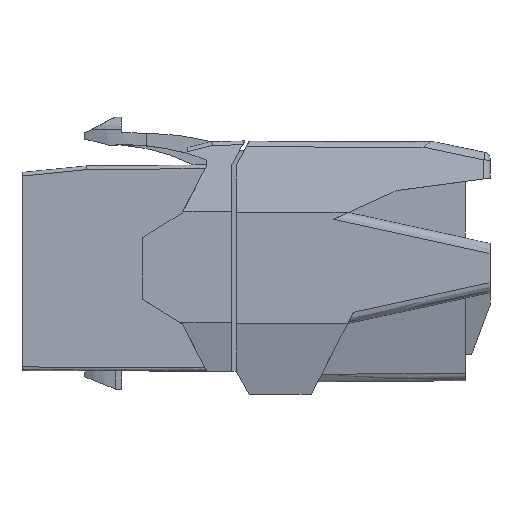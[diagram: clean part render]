
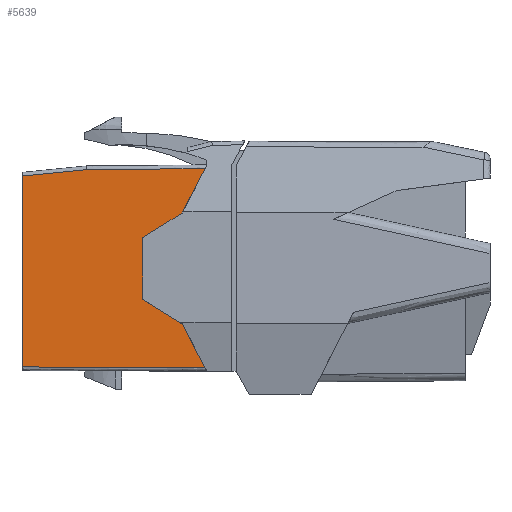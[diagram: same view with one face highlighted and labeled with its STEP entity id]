
A CAD part, front view. The second image highlights one B-rep face of the part: STEP entity #5639.
In plain terms, the highlighted free-form (B-spline) face has degree [1, 1] with [2, 2] control points.
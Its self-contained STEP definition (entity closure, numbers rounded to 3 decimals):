
#4876=CARTESIAN_POINT('',(0.,-7.25,15.799));
#4877=VERTEX_POINT('',#4876);
#4896=CARTESIAN_POINT('',(5.219,-7.277,16.321));
#4897=VERTEX_POINT('',#4896);
#4898=CARTESIAN_POINT('',(0.,-7.25,15.799));
#4899=CARTESIAN_POINT('',(1.044,-7.255,15.903));
#4900=CARTESIAN_POINT('',(2.088,-7.261,16.007));
#4901=CARTESIAN_POINT('',(3.131,-7.266,16.112));
#4902=CARTESIAN_POINT('',(4.175,-7.272,16.216));
#4903=CARTESIAN_POINT('',(5.219,-7.277,16.321));
#4904=B_SPLINE_CURVE_WITH_KNOTS('',5,(#4898,#4899,#4900,#4901,#4902,#4903),.UNSPECIFIED.,.F.,.U.,(6,6),(0.,5.245),.UNSPECIFIED.);
#4905=EDGE_CURVE('',#4877,#4897,#4904,.T.);
#4939=CARTESIAN_POINT('',(14.873,-7.328,16.405));
#4940=VERTEX_POINT('',#4939);
#4941=CARTESIAN_POINT('',(5.219,-7.277,16.321));
#4942=CARTESIAN_POINT('',(7.15,-7.287,16.337));
#4943=CARTESIAN_POINT('',(9.08,-7.298,16.354));
#4944=CARTESIAN_POINT('',(11.011,-7.308,16.371));
#4945=CARTESIAN_POINT('',(12.942,-7.318,16.388));
#4946=CARTESIAN_POINT('',(14.873,-7.328,16.405));
#4947=B_SPLINE_CURVE_WITH_KNOTS('',5,(#4941,#4942,#4943,#4944,#4945,#4946),.UNSPECIFIED.,.F.,.U.,(6,6),(0.,9.654),.UNSPECIFIED.);
#4948=EDGE_CURVE('',#4897,#4940,#4947,.T.);
#5514=CARTESIAN_POINT('',(14.864,-7.328,0.259));
#5515=VERTEX_POINT('',#5514);
#5534=CARTESIAN_POINT('',(0.,-7.25,0.3));
#5535=VERTEX_POINT('',#5534);
#5536=CARTESIAN_POINT('',(14.864,-7.328,0.259));
#5537=CARTESIAN_POINT('',(11.891,-7.312,0.267));
#5538=CARTESIAN_POINT('',(8.918,-7.297,0.275));
#5539=CARTESIAN_POINT('',(5.945,-7.281,0.283));
#5540=CARTESIAN_POINT('',(2.973,-7.266,0.292));
#5541=CARTESIAN_POINT('',(0.,-7.25,0.3));
#5542=B_SPLINE_CURVE_WITH_KNOTS('',5,(#5536,#5537,#5538,#5539,#5540,#5541),.UNSPECIFIED.,.F.,.U.,(6,6),(0.,14.864),.UNSPECIFIED.);
#5543=EDGE_CURVE('',#5515,#5535,#5542,.T.);
#5567=CARTESIAN_POINT('',(0.,-7.25,16.405));
#5568=CARTESIAN_POINT('',(14.873,-7.328,16.405));
#5569=CARTESIAN_POINT('',(0.,-7.25,0.259));
#5570=CARTESIAN_POINT('',(14.873,-7.328,0.259));
#5571=B_SPLINE_SURFACE_WITH_KNOTS('',1,1,((#5567,#5568),(#5569,#5570)),.PLANE_SURF.,.F.,.F.,.U.,(2,2),(2,2),(0.,1.086),(0.,1.),.UNSPECIFIED.);
#5572=ORIENTED_EDGE('',*,*,#4905,.F.);
#5573=CARTESIAN_POINT('',(0.,-7.25,15.799));
#5574=CARTESIAN_POINT('',(0.,-7.25,12.699));
#5575=CARTESIAN_POINT('',(0.,-7.25,9.599));
#5576=CARTESIAN_POINT('',(0.,-7.25,6.499));
#5577=CARTESIAN_POINT('',(0.,-7.25,3.4));
#5578=CARTESIAN_POINT('',(0.,-7.25,0.3));
#5579=B_SPLINE_CURVE_WITH_KNOTS('',5,(#5573,#5574,#5575,#5576,#5577,#5578),.UNSPECIFIED.,.F.,.U.,(6,6),(0.,15.499),.UNSPECIFIED.);
#5580=EDGE_CURVE('',#4877,#5535,#5579,.T.);
#5581=ORIENTED_EDGE('',*,*,#5580,.T.);
#5582=ORIENTED_EDGE('',*,*,#5543,.F.);
#5583=CARTESIAN_POINT('',(12.996,-7.318,3.802));
#5584=VERTEX_POINT('',#5583);
#5585=CARTESIAN_POINT('',(12.996,-7.318,3.802));
#5586=CARTESIAN_POINT('',(13.37,-7.32,3.094));
#5587=CARTESIAN_POINT('',(13.743,-7.322,2.385));
#5588=CARTESIAN_POINT('',(14.117,-7.324,1.676));
#5589=CARTESIAN_POINT('',(14.49,-7.326,0.967));
#5590=CARTESIAN_POINT('',(14.864,-7.328,0.259));
#5591=B_SPLINE_CURVE_WITH_KNOTS('',5,(#5585,#5586,#5587,#5588,#5589,#5590),.UNSPECIFIED.,.F.,.U.,(6,6),(0.,4.006),.UNSPECIFIED.);
#5592=EDGE_CURVE('',#5584,#5515,#5591,.T.);
#5593=ORIENTED_EDGE('',*,*,#5592,.F.);
#5594=CARTESIAN_POINT('',(9.8,-7.301,5.8));
#5595=VERTEX_POINT('',#5594);
#5596=CARTESIAN_POINT('',(9.8,-7.301,5.8));
#5597=CARTESIAN_POINT('',(10.439,-7.305,5.4));
#5598=CARTESIAN_POINT('',(11.078,-7.308,5.001));
#5599=CARTESIAN_POINT('',(11.718,-7.311,4.601));
#5600=CARTESIAN_POINT('',(12.357,-7.315,4.202));
#5601=CARTESIAN_POINT('',(12.996,-7.318,3.802));
#5602=B_SPLINE_CURVE_WITH_KNOTS('',5,(#5596,#5597,#5598,#5599,#5600,#5601),.UNSPECIFIED.,.F.,.U.,(6,6),(0.,3.769),.UNSPECIFIED.);
#5603=EDGE_CURVE('',#5595,#5584,#5602,.T.);
#5604=ORIENTED_EDGE('',*,*,#5603,.F.);
#5605=CARTESIAN_POINT('',(9.8,-7.301,10.8));
#5606=VERTEX_POINT('',#5605);
#5607=CARTESIAN_POINT('',(9.8,-7.301,10.8));
#5608=CARTESIAN_POINT('',(9.8,-7.301,9.8));
#5609=CARTESIAN_POINT('',(9.8,-7.301,8.8));
#5610=CARTESIAN_POINT('',(9.8,-7.301,7.8));
#5611=CARTESIAN_POINT('',(9.8,-7.301,6.8));
#5612=CARTESIAN_POINT('',(9.8,-7.301,5.8));
#5613=B_SPLINE_CURVE_WITH_KNOTS('',5,(#5607,#5608,#5609,#5610,#5611,#5612),.UNSPECIFIED.,.F.,.U.,(6,6),(0.,5.),.UNSPECIFIED.);
#5614=EDGE_CURVE('',#5606,#5595,#5613,.T.);
#5615=ORIENTED_EDGE('',*,*,#5614,.F.);
#5616=CARTESIAN_POINT('',(13.,-7.318,12.8));
#5617=VERTEX_POINT('',#5616);
#5618=CARTESIAN_POINT('',(13.,-7.318,12.8));
#5619=CARTESIAN_POINT('',(12.36,-7.315,12.4));
#5620=CARTESIAN_POINT('',(11.72,-7.311,12.));
#5621=CARTESIAN_POINT('',(11.08,-7.308,11.6));
#5622=CARTESIAN_POINT('',(10.44,-7.305,11.2));
#5623=CARTESIAN_POINT('',(9.8,-7.301,10.8));
#5624=B_SPLINE_CURVE_WITH_KNOTS('',5,(#5618,#5619,#5620,#5621,#5622,#5623),.UNSPECIFIED.,.F.,.U.,(6,6),(0.,3.774),.UNSPECIFIED.);
#5625=EDGE_CURVE('',#5617,#5606,#5624,.T.);
#5626=ORIENTED_EDGE('',*,*,#5625,.F.);
#5627=CARTESIAN_POINT('',(14.873,-7.328,16.405));
#5628=CARTESIAN_POINT('',(14.498,-7.326,15.684));
#5629=CARTESIAN_POINT('',(14.124,-7.324,14.963));
#5630=CARTESIAN_POINT('',(13.749,-7.322,14.242));
#5631=CARTESIAN_POINT('',(13.375,-7.32,13.521));
#5632=CARTESIAN_POINT('',(13.,-7.318,12.8));
#5633=B_SPLINE_CURVE_WITH_KNOTS('',5,(#5627,#5628,#5629,#5630,#5631,#5632),.UNSPECIFIED.,.F.,.U.,(6,6),(0.,4.062),.UNSPECIFIED.);
#5634=EDGE_CURVE('',#4940,#5617,#5633,.T.);
#5635=ORIENTED_EDGE('',*,*,#5634,.F.);
#5636=ORIENTED_EDGE('',*,*,#4948,.F.);
#5637=EDGE_LOOP('',(#5572,#5581,#5582,#5593,#5604,#5615,#5626,#5635,#5636));
#5638=FACE_OUTER_BOUND('',#5637,.T.);
#5639=ADVANCED_FACE('',(#5638),#5571,.T.);
